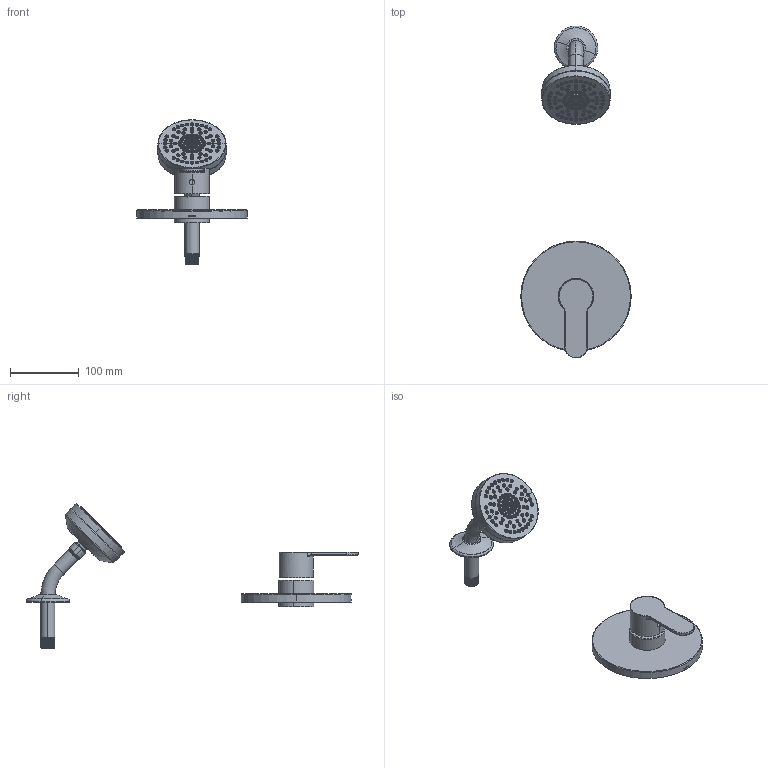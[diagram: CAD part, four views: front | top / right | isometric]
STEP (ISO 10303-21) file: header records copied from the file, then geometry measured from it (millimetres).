
FILE_DESCRIPTION (( 'STEP AP214' ), '1' );
FILE_NAME ('6791TRM.STEP', '2025-01-15T08:08:35', ( '' ), ( '' ), 'SwSTEP 2.0', 'SolidWorks 2023', '' );
FILE_SCHEMA (( 'AUTOMOTIVE_DESIGN' ));
Products named in the file (1): 6791TRM
Bounding box: 161.04 x 484.11 x 210.78 mm (x, y, z)
Surface area: 169189.7 mm2 (no closed solid volume)
Topology: 0 solids, 120 shells, 1212 faces, 3950 edges, 2873 vertices
Faces by surface type: bspline 337, plane 320, cone 273, cylinder 203, torus 66, sphere 13
Entity records: 152601 total; most frequent: CARTESIAN_POINT 122347, ORIENTED_EDGE 6184, DIRECTION 5018, EDGE_CURVE 3945, VERTEX_POINT 2870, AXIS2_PLACEMENT_3D 2030, B_SPLINE_CURVE_WITH_KNOTS 1808, EDGE_LOOP 1543
